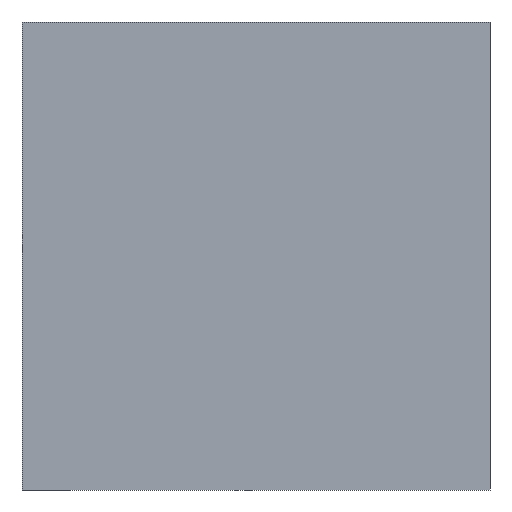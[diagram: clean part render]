
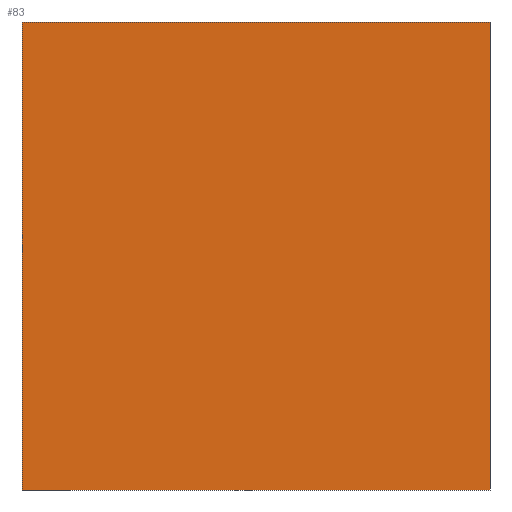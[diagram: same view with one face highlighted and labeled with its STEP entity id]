
A CAD part, front view. The second image highlights one B-rep face of the part: STEP entity #83.
In plain terms, the highlighted planar face has unit normal (0, -1, 0).
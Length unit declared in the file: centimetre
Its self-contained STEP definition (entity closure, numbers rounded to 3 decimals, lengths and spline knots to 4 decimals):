
#4 = VERTEX_POINT ( 'NONE', #176 ) ;
#5 = EDGE_CURVE ( 'NONE', #327, #140, #386, .T. ) ;
#46 = CARTESIAN_POINT ( 'NONE',  ( 1000., 0., 1000. ) ) ;
#58 = DIRECTION ( 'NONE',  ( 0., 1., 0. ) ) ;
#69 = CARTESIAN_POINT ( 'NONE',  ( 0., 0., 1000. ) ) ;
#83 = ADVANCED_FACE ( 'NONE', ( #244 ), #91, .F. ) ;
#91 = PLANE ( 'NONE',  #106 ) ;
#106 = AXIS2_PLACEMENT_3D ( 'NONE', #274, #58, #280 ) ;
#114 = ORIENTED_EDGE ( 'NONE', *, *, #115, .F. ) ;
#115 = EDGE_CURVE ( 'NONE', #4, #327, #155, .T. ) ;
#136 = LINE ( 'NONE', #193, #329 ) ;
#138 = DIRECTION ( 'NONE',  ( 1., 0., 0. ) ) ;
#140 = VERTEX_POINT ( 'NONE', #279 ) ;
#144 = EDGE_LOOP ( 'NONE', ( #360, #269, #114, #194 ) ) ;
#155 = LINE ( 'NONE', #188, #288 ) ;
#156 = VECTOR ( 'NONE', #345, 100. ) ;
#163 = EDGE_CURVE ( 'NONE', #384, #140, #136, .T. ) ;
#166 = EDGE_CURVE ( 'NONE', #4, #384, #254, .T. ) ;
#176 = CARTESIAN_POINT ( 'NONE',  ( 0., 0., 1000. ) ) ;
#185 = DIRECTION ( 'NONE',  ( 1., 0., 0. ) ) ;
#188 = CARTESIAN_POINT ( 'NONE',  ( 0., 0., 1000. ) ) ;
#193 = CARTESIAN_POINT ( 'NONE',  ( 0., 0., 0. ) ) ;
#194 = ORIENTED_EDGE ( 'NONE', *, *, #166, .T. ) ;
#244 = FACE_OUTER_BOUND ( 'NONE', #144, .T. ) ;
#254 = LINE ( 'NONE', #69, #156 ) ;
#269 = ORIENTED_EDGE ( 'NONE', *, *, #5, .F. ) ;
#274 = CARTESIAN_POINT ( 'NONE',  ( 0., 0., 1000. ) ) ;
#279 = CARTESIAN_POINT ( 'NONE',  ( 1000., 0., 0. ) ) ;
#280 = DIRECTION ( 'NONE',  ( 0., 0., 1. ) ) ;
#288 = VECTOR ( 'NONE', #185, 100. ) ;
#299 = DIRECTION ( 'NONE',  ( 0., 0., -1. ) ) ;
#304 = CARTESIAN_POINT ( 'NONE',  ( 1000., 0., 1000. ) ) ;
#327 = VERTEX_POINT ( 'NONE', #46 ) ;
#329 = VECTOR ( 'NONE', #138, 100. ) ;
#345 = DIRECTION ( 'NONE',  ( 0., 0., -1. ) ) ;
#352 = VECTOR ( 'NONE', #299, 100. ) ;
#360 = ORIENTED_EDGE ( 'NONE', *, *, #163, .T. ) ;
#384 = VERTEX_POINT ( 'NONE', #387 ) ;
#386 = LINE ( 'NONE', #304, #352 ) ;
#387 = CARTESIAN_POINT ( 'NONE',  ( 0., 0., 0. ) ) ;
